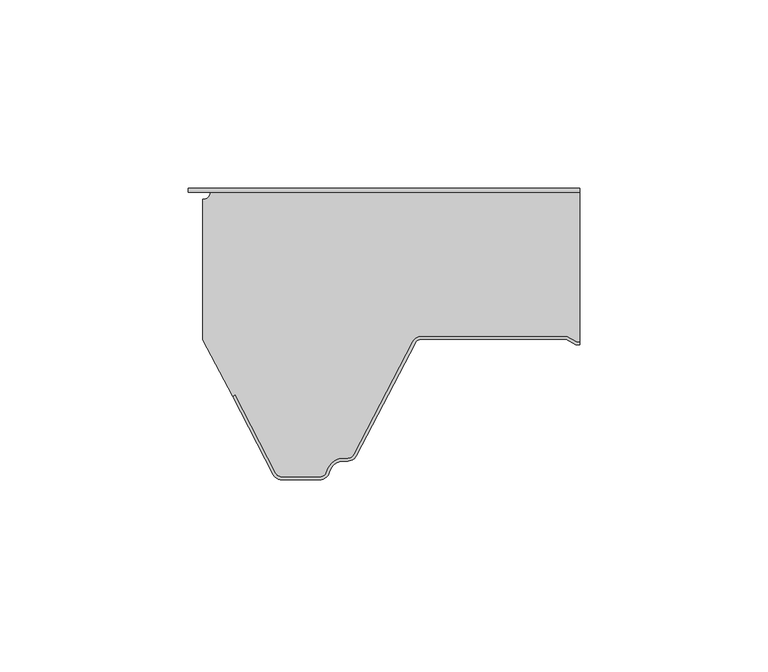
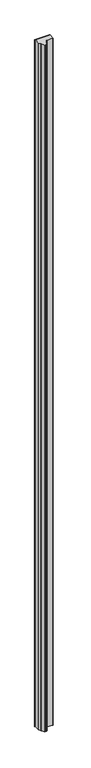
"""IFC4 building model written with IfcOpenShell, lengths in millimetres: plate geometry, Paneles-Sándwich-Madera_PALDR-H_Curtain-Panel : PALDR H 40/10."""

from ifc_helpers import new_model, si_unit, frame, origin, origin_with_axes, place, context, project, spatial, polyline, circle_curve, outline, extrude, source, transform, mapped, element, save
from ifc_brep_helpers import plane_surface, cylinder_surface, revolved_surface, advanced_brep


def plate_e932f5b0(model_context):
    return source(origin(), model_context, "Body", "SolidModel", [
        extrude(outline(polyline([(-53.88, -1.0), (-53.88, 0.0), (50.0, 0.0), (50.0, -1.0), (-53.88, -1.0)])), origin_with_axes(), (0.0, 0.0, 1.0), 5000.0),
        advanced_brep(
        [(-30.6207387, -75.6314818, 0.0), (-41.4414179, -54.855778, 0.0), (-42.1509492, -55.2253256, 0.0), (-50.0, -40.1551481, 0.0), (-50.0, -2.95, 0.0), (-48.05, -1.0, 0.0), (50.0, -1.0, 0.0), (50.0, -40.7, 0.0), (49.2107961, -40.7, 0.0), (46.6127185, -39.2, 0.0), (8.090871, -39.2, 0.0), (5.6075115, -40.7065836, 0.0), (-9.9783733, -70.6314825, 0.0), (-11.574819, -71.6, 0.0), (-12.6272901, -71.6, 0.0), (-17.2841077, -75.2363636, 0.0), (-19.030414, -76.5999997, 0.0), (-29.024293, -76.5999997, 0.0), (-30.6207383, -75.6314813, 5000.0), (-29.024293, -76.5999997, 5000.0), (-19.030414, -76.5999997, 5000.0), (-17.2841077, -75.2363636, 5000.0), (-12.6272901, -71.6, 5000.0), (-11.574819, -71.6, 5000.0), (-9.9783737, -70.631482, 5000.0), (5.6075107, -40.7065835, 5000.0), (8.090871, -39.2, 5000.0), (46.6127185, -39.2, 5000.0), (49.2107961, -40.7, 5000.0), (50.0, -40.7, 5000.0), (50.0, -1.0, 5000.0), (-48.05, -1.0, 5000.0), (-50.0, -2.95, 5000.0), (-50.0, -40.1551481, 5000.0), (-42.1509492, -55.2253256, 5000.0), (-41.4414179, -54.855778, 5000.0)],
        [
            (0, 1),
            (1, 2),
            (2, 3),
            (3, 4),
            (4, 5, circle_curve(frame((-50.0, -1.0, 0.0), z_axis=(0.0, 0.0, 1.0), x_axis=(-1.0, 0.0, 0.0)), 1.95)),
            (5, 6),
            (6, 7),
            (7, 8),
            (8, 9),
            (9, 10),
            (10, 11, circle_curve(frame((8.090871, -42.0, 0.0), z_axis=(0.0, 0.0, 1.0), x_axis=(-1.0, 0.0, 0.0)), 2.8)),
            (11, 12),
            (12, 13, circle_curve(frame((-11.574819, -69.8, 0.0), z_axis=(0.0, 0.0, -1.0), x_axis=(-1.0, 0.0, 0.0)), 1.8)),
            (13, 14),
            (14, 15, circle_curve(frame((-12.6272901, -76.4, 0.0), z_axis=(0.0, 0.0, 1.0), x_axis=(-1.0, 0.0, 0.0)), 4.8)),
            (15, 16, circle_curve(frame((-19.030414, -74.8, 0.0), z_axis=(0.0, 0.0, -1.0), x_axis=(-1.0, 0.0, 0.0)), 1.7999997)),
            (16, 17),
            (17, 0, circle_curve(frame((-29.024293, -74.8, 0.0), z_axis=(0.0, 0.0, -1.0), x_axis=(-1.0, 0.0, 0.0)), 1.7999997)),
            (18, 19, circle_curve(frame((-29.024293, -74.8, 5000.0), z_axis=(0.0, 0.0, 1.0), x_axis=(-1.0, 0.0, 0.0)), 1.7999997)),
            (19, 20),
            (20, 21, circle_curve(frame((-19.030414, -74.8, 5000.0), z_axis=(0.0, 0.0, 1.0), x_axis=(-1.0, 0.0, 0.0)), 1.7999997)),
            (21, 22, circle_curve(frame((-12.6272901, -76.4, 5000.0), z_axis=(0.0, 0.0, -1.0), x_axis=(-1.0, 0.0, 0.0)), 4.8)),
            (22, 23),
            (23, 24, circle_curve(frame((-11.574819, -69.8, 5000.0), z_axis=(0.0, 0.0, 1.0), x_axis=(-1.0, 0.0, 0.0)), 1.8)),
            (24, 25),
            (25, 26, circle_curve(frame((8.090871, -42.0, 5000.0), z_axis=(0.0, 0.0, -1.0), x_axis=(-1.0, 0.0, 0.0)), 2.8)),
            (26, 27),
            (27, 28),
            (28, 29),
            (29, 30),
            (30, 31),
            (31, 32, circle_curve(frame((-50.0, -1.0, 5000.0), z_axis=(0.0, 0.0, -1.0), x_axis=(-1.0, 0.0, 0.0)), 1.95)),
            (32, 33),
            (33, 34),
            (34, 35),
            (35, 18),
            (0, 18),
            (35, 1),
            (34, 2),
            (33, 3),
            (32, 4),
            (5, 31),
            (30, 6),
            (28, 8),
            (7, 29),
            (27, 9),
            (26, 10),
            (25, 11),
            (24, 12),
            (23, 13),
            (22, 14),
            (21, 15),
            (20, 16),
            (19, 17),
        ],
        [
            plane_surface(frame((-50.0, 0.0, 0.0), z_axis=(0.0, 0.0, -1.0), x_axis=(0.0, 1.0, 0.0))),
            plane_surface(frame((-50.0, 0.0, 5000.0), z_axis=(0.0, 0.0, 1.0), x_axis=(0.0, 1.0, 0.0))),
            plane_surface(frame((-30.6207387, -75.6314818, 0.0), z_axis=(-0.8869140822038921, -0.4619344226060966, 0.0), x_axis=(0.0, 0.0, 1.0))),
            plane_surface(frame((-41.4414179, -54.855778, 0.0), z_axis=(0.4619344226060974, -0.8869140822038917, 0.0), x_axis=(0.0, 0.0, 1.0))),
            plane_surface(frame((-42.1509492, -55.2253256, 0.0), z_axis=(-0.8869140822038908, -0.4619344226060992, 0.0), x_axis=(0.0, 0.0, 1.0))),
            plane_surface(frame((-50.0, -40.1551481, 0.0), z_axis=(-1.0, 0.0, 0.0), x_axis=(0.0, 0.0, 1.0))),
            plane_surface(frame((-48.05, -1.0, 0.0), z_axis=(0.0, 1.0, 0.0), x_axis=(0.0, 0.0, 1.0))),
            plane_surface(frame((81.5859248, -40.7, 0.0), z_axis=(0.0, -1.0, 0.0), x_axis=(0.0, 0.0, 1.0))),
            plane_surface(frame((49.2107961, -40.7, 0.0), z_axis=(-0.4999997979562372, -0.866025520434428, 0.0), x_axis=(0.0, 0.0, 1.0))),
            plane_surface(frame((46.6127185, -39.2, 0.0), z_axis=(0.0, -1.0, 0.0), x_axis=(0.0, 0.0, 1.0))),
            revolved_surface(polyline([(5.290871, -42.0, 5000.0), (5.290871, -42.0, 0.0)]), (8.090871, -42.0, 0.0), (0.0, 0.0, 1.0)),
            plane_surface(frame((5.6075107, -40.7065835, 0.0), z_axis=(0.8869140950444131, -0.4619343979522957, 0.0), x_axis=(0.0, 0.0, 1.0))),
            cylinder_surface(frame((-11.574819, -69.8, 0.0), z_axis=(0.0, 0.0, -1.0), x_axis=(-1.0, 0.0, 0.0)), 1.8),
            plane_surface(frame((-11.574819, -71.6, 0.0), z_axis=(0.0, -1.0, 0.0), x_axis=(0.0, 0.0, 1.0))),
            revolved_surface(polyline([(-17.4272901, -76.4, 5000.0), (-17.4272901, -76.4, 0.0)]), (-12.6272901, -76.4, 0.0), (0.0, 0.0, 1.0)),
            cylinder_surface(frame((-19.030414, -74.8, 0.0), z_axis=(0.0, 0.0, -1.0), x_axis=(-1.0, 0.0, 0.0)), 1.7999997),
            plane_surface(frame((-19.030414, -76.5999997, 0.0), z_axis=(0.0, -1.0, 0.0), x_axis=(0.0, 0.0, 1.0))),
            cylinder_surface(frame((-29.024293, -74.8, 0.0), z_axis=(0.0, 0.0, -1.0), x_axis=(-1.0, 0.0, 0.0)), 1.7999997),
            revolved_surface(polyline([(-51.95, -1.0, 5000.0), (-51.95, -1.0, 0.0)]), (-50.0, -1.0, 0.0), (0.0, 0.0, 1.0)),
            plane_surface(frame((50.0, 0.0, 5000.0), z_axis=(1.0, 0.0, 0.0), x_axis=(0.0, 0.0, -1.0))),
        ],
        [
            (0, [[1, 2, 3, 4, 5, 6, 7, 8, 9, 10, 11, 12, 13, 14, 15, 16, 17, 18]]),
            (1, [[19, 20, 21, 22, 23, 24, 25, 26, 27, 28, 29, 30, 31, 32, 33, 34, 35, 36]]),
            (2, [[-1, 37, -36, 38]]),
            (3, [[-2, -38, -35, 39]]),
            (4, [[-3, -39, -34, 40]]),
            (5, [[-4, -40, -33, 41]]),
            (6, [[42, -31, 43, -6]]),
            (7, [[44, -8, 45, -29]]),
            (8, [[-9, -44, -28, 46]]),
            (9, [[-10, -46, -27, 47]]),
            (10, [[-11, -47, -26, 48]]),
            (11, [[-12, -48, -25, 49]]),
            (12, [[-13, -49, -24, 50]]),
            (13, [[-14, -50, -23, 51]]),
            (14, [[-15, -51, -22, 52]]),
            (15, [[-16, -52, -21, 53]]),
            (16, [[-17, -53, -20, 54]]),
            (17, [[-18, -54, -19, -37]]),
            (18, [[-5, -41, -32, -42]]),
            (19, [[-7, -43, -30, -45]]),
        ],
    ),
        advanced_brep(
        [(49.2107962, -40.7, 5000.0), (46.6127186, -39.2, 5000.0), (8.090871, -39.2, 5000.0), (5.6075116, -40.7065836, 5000.0), (-9.9783733, -70.6314825, 5000.0), (-11.574819, -71.6, 5000.0), (-12.62729, -71.6, 5000.0), (-17.2841076, -75.2363636, 5000.0), (-19.030414, -76.6, 5000.0), (-29.024293, -76.6, 5000.0), (-30.6207383, -75.631482, 5000.0), (-41.4404688, -54.8576004, 5000.0), (-42.15, -55.227148, 5000.0), (-31.33027, -76.00103, 5000.0), (-29.024293, -77.4, 5000.0), (-19.030414, -77.4, 5000.0), (-16.5079711, -75.4303031, 5000.0), (-12.62729, -72.4, 5000.0), (-11.574819, -72.4, 5000.0), (-9.2688424, -71.0010295, 5000.0), (6.317042, -41.076131, 5000.0), (8.090871, -40.0, 5000.0), (46.3983593, -40.0, 5000.0), (48.9964369, -41.5, 5000.0), (50.0, -41.5, 5000.0), (50.0, -40.7, 5000.0), (48.9964369, -41.5, 0.0), (46.3983593, -40.0, 0.0), (8.090871, -40.0, 0.0), (6.3170428, -41.0761312, 0.0), (-9.268842, -71.00103, 0.0), (-11.574819, -72.4, 0.0), (-12.62729, -72.4, 0.0), (-16.5079713, -75.430303, 0.0), (-19.030414, -77.4, 0.0), (-29.024293, -77.4, 0.0), (-31.3302696, -76.0010295, 0.0), (-42.15, -55.227148, 0.0), (-41.4404688, -54.8576004, 0.0), (-30.6207387, -75.6314825, 0.0), (-29.024293, -76.6, 0.0), (-19.030414, -76.6, 0.0), (-17.2841074, -75.2363637, 0.0), (-12.62729, -71.6, 0.0), (-11.574819, -71.6, 0.0), (-9.9783737, -70.631482, 0.0), (5.6075107, -40.7065835, 0.0), (8.090871, -39.2, 0.0), (46.6127186, -39.2, 0.0), (49.2107962, -40.7, 0.0), (50.0, -40.7, 0.0), (50.0, -41.5, 0.0)],
        [
            (0, 1),
            (1, 2),
            (2, 3, circle_curve(frame((8.090871, -42.0, 5000.0), z_axis=(0.0, 0.0, 1.0), x_axis=(1.0, 0.0, 0.0)), 2.8)),
            (3, 4),
            (4, 5, circle_curve(frame((-11.574819, -69.8, 5000.0), z_axis=(0.0, 0.0, -1.0), x_axis=(1.0, 0.0, 0.0)), 1.8)),
            (5, 6),
            (6, 7, circle_curve(frame((-12.62729, -76.4, 5000.0), z_axis=(0.0, 0.0, 1.0), x_axis=(1.0, 0.0, 0.0)), 4.8)),
            (7, 8, circle_curve(frame((-19.030414, -74.8, 5000.0), z_axis=(0.0, 0.0, -1.0), x_axis=(1.0, 0.0, 0.0)), 1.8)),
            (8, 9),
            (9, 10, circle_curve(frame((-29.024293, -74.8, 5000.0), z_axis=(0.0, 0.0, -1.0), x_axis=(1.0, 0.0, 0.0)), 1.8)),
            (10, 11),
            (11, 12),
            (12, 13),
            (13, 14, circle_curve(frame((-29.024293, -74.8, 5000.0), z_axis=(0.0, 0.0, 1.0), x_axis=(1.0, 0.0, 0.0)), 2.6)),
            (14, 15),
            (15, 16, circle_curve(frame((-19.030414, -74.8, 5000.0), z_axis=(0.0, 0.0, 1.0), x_axis=(1.0, 0.0, 0.0)), 2.6)),
            (16, 17, circle_curve(frame((-12.62729, -76.4, 5000.0), z_axis=(0.0, 0.0, -1.0), x_axis=(1.0, 0.0, 0.0)), 4.0)),
            (17, 18),
            (18, 19, circle_curve(frame((-11.574819, -69.8, 5000.0), z_axis=(0.0, 0.0, 1.0), x_axis=(1.0, 0.0, 0.0)), 2.6)),
            (19, 20),
            (20, 21, circle_curve(frame((8.090871, -42.0, 5000.0), z_axis=(0.0, 0.0, -1.0), x_axis=(1.0, 0.0, 0.0)), 2.0)),
            (21, 22),
            (22, 23),
            (23, 24),
            (24, 25),
            (25, 0),
            (26, 27),
            (27, 28),
            (28, 29, circle_curve(frame((8.090871, -42.0, 0.0), z_axis=(0.0, 0.0, 1.0), x_axis=(1.0, 0.0, 0.0)), 2.0)),
            (29, 30),
            (30, 31, circle_curve(frame((-11.574819, -69.8, 0.0), z_axis=(0.0, 0.0, -1.0), x_axis=(1.0, 0.0, 0.0)), 2.6)),
            (31, 32),
            (32, 33, circle_curve(frame((-12.62729, -76.4, 0.0), z_axis=(0.0, 0.0, 1.0), x_axis=(1.0, 0.0, 0.0)), 4.0)),
            (33, 34, circle_curve(frame((-19.030414, -74.8, 0.0), z_axis=(0.0, 0.0, -1.0), x_axis=(1.0, 0.0, 0.0)), 2.6)),
            (34, 35),
            (35, 36, circle_curve(frame((-29.024293, -74.8, 0.0), z_axis=(0.0, 0.0, -1.0), x_axis=(1.0, 0.0, 0.0)), 2.6)),
            (36, 37),
            (37, 38),
            (38, 39),
            (39, 40, circle_curve(frame((-29.024293, -74.8, 0.0), z_axis=(0.0, 0.0, 1.0), x_axis=(1.0, 0.0, 0.0)), 1.8)),
            (40, 41),
            (41, 42, circle_curve(frame((-19.030414, -74.8, 0.0), z_axis=(0.0, 0.0, 1.0), x_axis=(1.0, 0.0, 0.0)), 1.8)),
            (42, 43, circle_curve(frame((-12.62729, -76.4, 0.0), z_axis=(0.0, 0.0, -1.0), x_axis=(1.0, 0.0, 0.0)), 4.8)),
            (43, 44),
            (44, 45, circle_curve(frame((-11.574819, -69.8, 0.0), z_axis=(0.0, 0.0, 1.0), x_axis=(1.0, 0.0, 0.0)), 1.8)),
            (45, 46),
            (46, 47, circle_curve(frame((8.090871, -42.0, 0.0), z_axis=(0.0, 0.0, -1.0), x_axis=(1.0, 0.0, 0.0)), 2.8)),
            (47, 48),
            (48, 49),
            (49, 50),
            (50, 51),
            (51, 26),
            (49, 0),
            (25, 50),
            (48, 1),
            (47, 2),
            (46, 3),
            (45, 4),
            (44, 5),
            (43, 6),
            (42, 7),
            (41, 8),
            (40, 9),
            (39, 10),
            (38, 11),
            (37, 12),
            (36, 13),
            (35, 14),
            (34, 15),
            (33, 16),
            (32, 17),
            (31, 18),
            (30, 19),
            (29, 20),
            (28, 21),
            (27, 22),
            (26, 23),
            (51, 24),
        ],
        [
            plane_surface(frame((-50.0, -40.0, 5000.0), z_axis=(0.0, 0.0, 1.0), x_axis=(0.0, 1.0, 0.0))),
            plane_surface(frame((-50.0, -40.0, 0.0), z_axis=(0.0, 0.0, -1.0), x_axis=(0.0, 1.0, 0.0))),
            plane_surface(frame((81.5859248, -40.7, 5000.0), z_axis=(0.0, 1.0, 0.0), x_axis=(0.0, 0.0, -1.0))),
            plane_surface(frame((49.2107962, -40.7, 5000.0), z_axis=(0.4999997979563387, 0.8660255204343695, 0.0), x_axis=(0.0, 0.0, -1.0))),
            plane_surface(frame((46.6127186, -39.2, 5000.0), z_axis=(0.0, 1.0, 0.0), x_axis=(0.0, 0.0, -1.0))),
            cylinder_surface(frame((8.090871, -42.0, 5000.0), z_axis=(0.0, 0.0, 1.0), x_axis=(1.0, 0.0, 0.0)), 2.8),
            plane_surface(frame((5.6075107, -40.7065835, 5000.0), z_axis=(-0.8869140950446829, 0.4619343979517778, 0.0), x_axis=(0.0, 0.0, -1.0))),
            revolved_surface(polyline([(-9.774818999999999, -69.8, 0.0), (-9.774818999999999, -69.8, 5000.0)]), (-11.574819, -69.8, 5000.0), (0.0, 0.0, -1.0)),
            plane_surface(frame((-11.574819, -71.6, 5000.0), z_axis=(0.0, 1.0, 0.0), x_axis=(0.0, 0.0, -1.0))),
            cylinder_surface(frame((-12.62729, -76.4, 5000.0), z_axis=(0.0, 0.0, 1.0), x_axis=(1.0, 0.0, 0.0)), 4.8),
            revolved_surface(polyline([(-17.230414, -74.8, 0.0), (-17.230414, -74.8, 5000.0)]), (-19.030414, -74.8, 5000.0), (0.0, 0.0, -1.0)),
            plane_surface(frame((-19.030414, -76.6, 5000.0), z_axis=(0.0, 1.0, 0.0), x_axis=(0.0, 0.0, -1.0))),
            revolved_surface(polyline([(-27.224293, -74.8, 0.0), (-27.224293, -74.8, 5000.0)]), (-29.024293, -74.8, 5000.0), (0.0, 0.0, -1.0)),
            plane_surface(frame((-30.6207387, -75.6314825, 5000.0), z_axis=(0.8869140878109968, 0.46193441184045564, 0.0), x_axis=(0.0, 0.0, -1.0))),
            plane_surface(frame((-41.4404688, -54.8576004, 5000.0), z_axis=(-0.46193450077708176, 0.8869140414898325, 0.0), x_axis=(0.0, 0.0, -1.0))),
            plane_surface(frame((-42.15, -55.227148, 5000.0), z_axis=(-0.8869140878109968, -0.46193441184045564, 0.0), x_axis=(0.0, 0.0, -1.0))),
            cylinder_surface(frame((-29.024293, -74.8, 5000.0), z_axis=(0.0, 0.0, 1.0), x_axis=(1.0, 0.0, 0.0)), 2.6),
            plane_surface(frame((-29.024293, -77.4, 5000.0), z_axis=(0.0, -1.0, 0.0), x_axis=(0.0, 0.0, -1.0))),
            cylinder_surface(frame((-19.030414, -74.8, 5000.0), z_axis=(0.0, 0.0, 1.0), x_axis=(1.0, 0.0, 0.0)), 2.6),
            revolved_surface(polyline([(-8.62729, -76.4, 0.0), (-8.62729, -76.4, 5000.0)]), (-12.62729, -76.4, 5000.0), (0.0, 0.0, -1.0)),
            plane_surface(frame((-12.62729, -72.4, 5000.0), z_axis=(0.0, -1.0, 0.0), x_axis=(0.0, 0.0, -1.0))),
            cylinder_surface(frame((-11.574819, -69.8, 5000.0), z_axis=(0.0, 0.0, 1.0), x_axis=(1.0, 0.0, 0.0)), 2.6),
            plane_surface(frame((-9.268842, -71.00103, 5000.0), z_axis=(0.8869140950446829, -0.4619343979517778, 0.0), x_axis=(0.0, 0.0, -1.0))),
            revolved_surface(polyline([(10.090871, -42.0, 0.0), (10.090871, -42.0, 5000.0)]), (8.090871, -42.0, 5000.0), (0.0, 0.0, -1.0)),
            plane_surface(frame((8.090871, -40.0, 5000.0), z_axis=(0.0, -1.0, 0.0), x_axis=(0.0, 0.0, -1.0))),
            plane_surface(frame((46.3983593, -40.0, 5000.0), z_axis=(-0.4999997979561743, -0.8660255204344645, 0.0), x_axis=(0.0, 0.0, -1.0))),
            plane_surface(frame((48.9964369, -41.5, 5000.0), z_axis=(0.0, -1.0, 0.0), x_axis=(0.0, 0.0, -1.0))),
            plane_surface(frame((50.0, 0.0, 5000.0), z_axis=(1.0, 0.0, 0.0), x_axis=(0.0, 0.0, -1.0))),
        ],
        [
            (0, [[1, 2, 3, 4, 5, 6, 7, 8, 9, 10, 11, 12, 13, 14, 15, 16, 17, 18, 19, 20, 21, 22, 23, 24, 25, 26]]),
            (1, [[27, 28, 29, 30, 31, 32, 33, 34, 35, 36, 37, 38, 39, 40, 41, 42, 43, 44, 45, 46, 47, 48, 49, 50, 51, 52]]),
            (2, [[53, -26, 54, -50]]),
            (3, [[-1, -53, -49, 55]]),
            (4, [[-2, -55, -48, 56]]),
            (5, [[-3, -56, -47, 57]]),
            (6, [[-4, -57, -46, 58]]),
            (7, [[-5, -58, -45, 59]]),
            (8, [[-6, -59, -44, 60]]),
            (9, [[-7, -60, -43, 61]]),
            (10, [[-8, -61, -42, 62]]),
            (11, [[-9, -62, -41, 63]]),
            (12, [[-10, -63, -40, 64]]),
            (13, [[-11, -64, -39, 65]]),
            (14, [[-12, -65, -38, 66]]),
            (15, [[-13, -66, -37, 67]]),
            (16, [[-14, -67, -36, 68]]),
            (17, [[-15, -68, -35, 69]]),
            (18, [[-16, -69, -34, 70]]),
            (19, [[-17, -70, -33, 71]]),
            (20, [[-18, -71, -32, 72]]),
            (21, [[-19, -72, -31, 73]]),
            (22, [[-20, -73, -30, 74]]),
            (23, [[-21, -74, -29, 75]]),
            (24, [[-22, -75, -28, 76]]),
            (25, [[-23, -76, -27, 77]]),
            (26, [[-77, -52, 78, -24]]),
            (27, [[-25, -78, -51, -54]]),
        ],
    ),
    ])


if __name__ == "__main__":
    model = new_model("IFC4")
    model_context = context("Model", 3, world=origin())
    ifc_project = project(units=[si_unit("LENGTHUNIT", "METRE", prefix="MILLI")], contexts=[model_context])
    site = spatial("IfcSite", under=ifc_project)
    building = spatial("IfcBuilding", under=site)
    placement = place(None, origin())
    plate_shape = plate_e932f5b0(model_context)
    element("IfcPlate", 1, ObjectType="Paneles-Sándwich-Madera_PALDR-H_Curtain-Panel : PALDR H 40/10", at=placement, inside=building, context=model_context, shape_type="MappedRepresentation", body=[
        mapped(plate_shape, transform((0.0, 0.0, 0.0), x_axis=(1.0, 0.0, 0.0), y_axis=(0.0, 1.0, 0.0), z_axis=(0.0, 0.0, 1.0))),
    ])
    save(model, "model.ifc")
